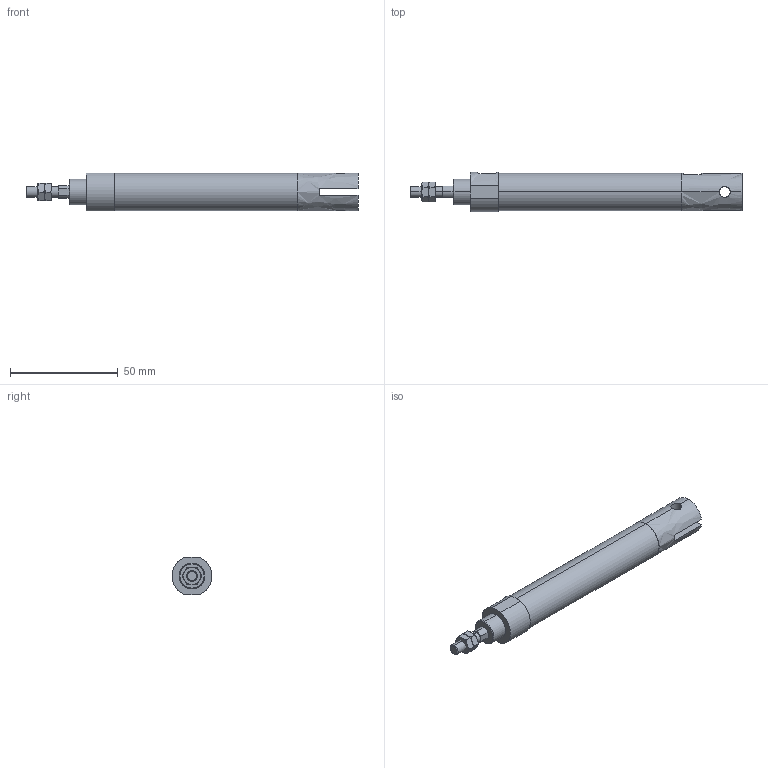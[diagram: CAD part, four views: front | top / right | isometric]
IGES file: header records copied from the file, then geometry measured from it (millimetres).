
Start section: SolidWorks IGES file using analytic representation for surfaces
Global section: file name: C:\Users\Toshiba\Desktop\ZGU2-16-60-W.IGS; native system: SolidWorks 2014; preprocessor: SolidWorks 2014; author: Toshiba; date: 160331.090222; units: millimetre
Bounding box: 154 x 18.5 x 17.6 mm (x, y, z)
Surface area: 9369.8 mm2 (no closed solid volume)
Topology: 0 solids, 0 shells, 94 faces, 1446 edges, 1442 vertices
Faces by surface type: bspline 61, revolution 33
